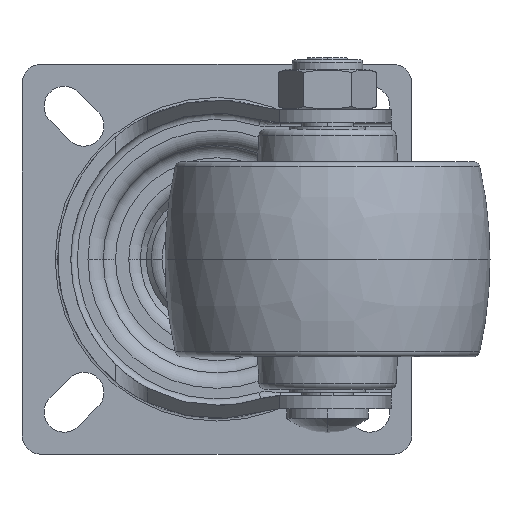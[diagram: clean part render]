
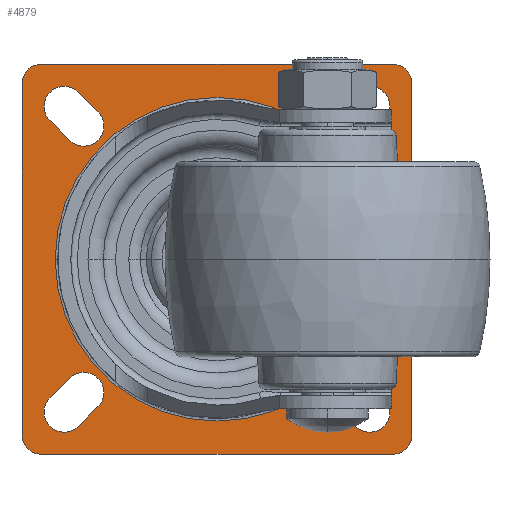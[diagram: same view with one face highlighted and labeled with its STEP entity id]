
A CAD part, front view. The second image highlights one B-rep face of the part: STEP entity #4879.
In plain terms, the highlighted planar face has unit normal (0, -1, 0).
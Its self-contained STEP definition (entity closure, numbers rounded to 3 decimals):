
#4014=CARTESIAN_POINT('',(0.,5.5,0.));
#4015=DIRECTION('',(0.,1.,0.));
#4016=DIRECTION('',(1.,0.,0.));
#4017=AXIS2_PLACEMENT_3D('',#4014,#4015,#4016);
#4019=CARTESIAN_POINT('',(0.,5.5,0.));
#4020=DIRECTION('',(0.,-1.,0.));
#4021=DIRECTION('',(1.,0.,0.));
#4022=AXIS2_PLACEMENT_3D('',#4019,#4020,#4021);
#4024=CARTESIAN_POINT('',(-23.5,5.5,-23.5));
#4025=DIRECTION('',(0.,-1.,0.));
#4026=DIRECTION('',(-0.707,0.,0.707));
#4027=AXIS2_PLACEMENT_3D('',#4024,#4025,#4026);
#4029=DIRECTION('',(-0.707,0.,-0.707));
#4030=VECTOR('',#4029,4.243);
#4031=CARTESIAN_POINT('',(-18.308,5.5,-22.692));
#4032=LINE('',#4031,#4030);
#4033=CARTESIAN_POINT('',(-20.5,5.5,-20.5));
#4034=DIRECTION('',(0.,-1.,0.));
#4035=DIRECTION('',(0.707,0.,-0.707));
#4036=AXIS2_PLACEMENT_3D('',#4033,#4034,#4035);
#4038=DIRECTION('',(0.707,0.,0.707));
#4039=VECTOR('',#4038,4.243);
#4040=CARTESIAN_POINT('',(-25.692,5.5,-21.308));
#4041=LINE('',#4040,#4039);
#4042=DIRECTION('',(0.707,0.,-0.707));
#4043=VECTOR('',#4042,4.243);
#4044=CARTESIAN_POINT('',(22.692,5.5,-18.308));
#4045=LINE('',#4044,#4043);
#4046=CARTESIAN_POINT('',(20.5,5.5,-20.5));
#4047=DIRECTION('',(0.,-1.,0.));
#4048=DIRECTION('',(0.707,0.,0.707));
#4049=AXIS2_PLACEMENT_3D('',#4046,#4047,#4048);
#4051=DIRECTION('',(-0.707,0.,0.707));
#4052=VECTOR('',#4051,4.243);
#4053=CARTESIAN_POINT('',(21.308,5.5,-25.692));
#4054=LINE('',#4053,#4052);
#4055=CARTESIAN_POINT('',(23.5,5.5,-23.5));
#4056=DIRECTION('',(0.,-1.,0.));
#4057=DIRECTION('',(-0.707,0.,-0.707));
#4058=AXIS2_PLACEMENT_3D('',#4055,#4056,#4057);
#4060=CARTESIAN_POINT('',(23.5,5.5,23.5));
#4061=DIRECTION('',(0.,-1.,0.));
#4062=DIRECTION('',(0.707,0.,-0.707));
#4063=AXIS2_PLACEMENT_3D('',#4060,#4061,#4062);
#4065=DIRECTION('',(0.707,0.,0.707));
#4066=VECTOR('',#4065,4.243);
#4067=CARTESIAN_POINT('',(18.308,5.5,22.692));
#4068=LINE('',#4067,#4066);
#4069=CARTESIAN_POINT('',(20.5,5.5,20.5));
#4070=DIRECTION('',(0.,-1.,0.));
#4071=DIRECTION('',(-0.707,0.,0.707));
#4072=AXIS2_PLACEMENT_3D('',#4069,#4070,#4071);
#4074=DIRECTION('',(-0.707,0.,-0.707));
#4075=VECTOR('',#4074,4.243);
#4076=CARTESIAN_POINT('',(25.692,5.5,21.308));
#4077=LINE('',#4076,#4075);
#4078=DIRECTION('',(-0.707,0.,0.707));
#4079=VECTOR('',#4078,4.243);
#4080=CARTESIAN_POINT('',(-22.692,5.5,18.308));
#4081=LINE('',#4080,#4079);
#4082=CARTESIAN_POINT('',(-20.5,5.5,20.5));
#4083=DIRECTION('',(0.,-1.,0.));
#4084=DIRECTION('',(-0.707,0.,-0.707));
#4085=AXIS2_PLACEMENT_3D('',#4082,#4083,#4084);
#4087=DIRECTION('',(0.707,0.,-0.707));
#4088=VECTOR('',#4087,4.243);
#4089=CARTESIAN_POINT('',(-21.308,5.5,25.692));
#4090=LINE('',#4089,#4088);
#4091=CARTESIAN_POINT('',(-23.5,5.5,23.5));
#4092=DIRECTION('',(0.,-1.,0.));
#4093=DIRECTION('',(0.707,0.,0.707));
#4094=AXIS2_PLACEMENT_3D('',#4091,#4092,#4093);
#4096=CARTESIAN_POINT('',(27.,5.5,27.));
#4097=DIRECTION('',(0.,-1.,0.));
#4098=DIRECTION('',(1.,0.,0.));
#4099=AXIS2_PLACEMENT_3D('',#4096,#4097,#4098);
#4101=DIRECTION('',(0.,0.,1.));
#4102=VECTOR('',#4101,54.);
#4103=CARTESIAN_POINT('',(30.,5.5,-27.));
#4104=LINE('',#4103,#4102);
#4105=CARTESIAN_POINT('',(27.,5.5,-27.));
#4106=DIRECTION('',(0.,-1.,0.));
#4107=DIRECTION('',(0.,0.,-1.));
#4108=AXIS2_PLACEMENT_3D('',#4105,#4106,#4107);
#4110=DIRECTION('',(1.,0.,0.));
#4111=VECTOR('',#4110,54.);
#4112=CARTESIAN_POINT('',(-27.,5.5,-30.));
#4113=LINE('',#4112,#4111);
#4114=CARTESIAN_POINT('',(-27.,5.5,-27.));
#4115=DIRECTION('',(0.,-1.,0.));
#4116=DIRECTION('',(-1.,0.,0.));
#4117=AXIS2_PLACEMENT_3D('',#4114,#4115,#4116);
#4119=DIRECTION('',(0.,0.,-1.));
#4120=VECTOR('',#4119,54.);
#4121=CARTESIAN_POINT('',(-30.,5.5,27.));
#4122=LINE('',#4121,#4120);
#4123=CARTESIAN_POINT('',(-27.,5.5,27.));
#4124=DIRECTION('',(0.,-1.,0.));
#4125=DIRECTION('',(0.,0.,1.));
#4126=AXIS2_PLACEMENT_3D('',#4123,#4124,#4125);
#4128=DIRECTION('',(-1.,0.,0.));
#4129=VECTOR('',#4128,54.);
#4130=CARTESIAN_POINT('',(27.,5.5,30.));
#4131=LINE('',#4130,#4129);
#4660=CARTESIAN_POINT('',(24.897,5.5,0.));
#4661=VERTEX_POINT('',#4660);
#4696=CARTESIAN_POINT('',(-24.897,5.5,0.));
#4697=VERTEX_POINT('',#4696);
#4714=CARTESIAN_POINT('',(-25.692,5.5,-21.308));
#4715=CARTESIAN_POINT('',(-21.308,5.5,-25.692));
#4716=VERTEX_POINT('',#4714);
#4717=VERTEX_POINT('',#4715);
#4718=CARTESIAN_POINT('',(-18.308,5.5,-22.692));
#4719=VERTEX_POINT('',#4718);
#4720=CARTESIAN_POINT('',(-22.692,5.5,-18.308));
#4721=VERTEX_POINT('',#4720);
#4722=CARTESIAN_POINT('',(22.692,5.5,-18.308));
#4723=CARTESIAN_POINT('',(25.692,5.5,-21.308));
#4724=VERTEX_POINT('',#4722);
#4725=VERTEX_POINT('',#4723);
#4726=CARTESIAN_POINT('',(18.308,5.5,-22.692));
#4727=VERTEX_POINT('',#4726);
#4728=CARTESIAN_POINT('',(21.308,5.5,-25.692));
#4729=VERTEX_POINT('',#4728);
#4730=CARTESIAN_POINT('',(25.692,5.5,21.308));
#4731=CARTESIAN_POINT('',(21.308,5.5,25.692));
#4732=VERTEX_POINT('',#4730);
#4733=VERTEX_POINT('',#4731);
#4734=CARTESIAN_POINT('',(18.308,5.5,22.692));
#4735=VERTEX_POINT('',#4734);
#4736=CARTESIAN_POINT('',(22.692,5.5,18.308));
#4737=VERTEX_POINT('',#4736);
#4738=CARTESIAN_POINT('',(-22.692,5.5,18.308));
#4739=CARTESIAN_POINT('',(-25.692,5.5,21.308));
#4740=VERTEX_POINT('',#4738);
#4741=VERTEX_POINT('',#4739);
#4742=CARTESIAN_POINT('',(-18.308,5.5,22.692));
#4743=VERTEX_POINT('',#4742);
#4744=CARTESIAN_POINT('',(-21.308,5.5,25.692));
#4745=VERTEX_POINT('',#4744);
#4782=CARTESIAN_POINT('',(30.,5.5,27.));
#4783=VERTEX_POINT('',#4782);
#4784=CARTESIAN_POINT('',(27.,5.5,30.));
#4785=VERTEX_POINT('',#4784);
#4790=CARTESIAN_POINT('',(-27.,5.5,30.));
#4791=VERTEX_POINT('',#4790);
#4792=CARTESIAN_POINT('',(-30.,5.5,27.));
#4793=VERTEX_POINT('',#4792);
#4798=CARTESIAN_POINT('',(-30.,5.5,-27.));
#4799=VERTEX_POINT('',#4798);
#4800=CARTESIAN_POINT('',(-27.,5.5,-30.));
#4801=VERTEX_POINT('',#4800);
#4806=CARTESIAN_POINT('',(27.,5.5,-30.));
#4807=VERTEX_POINT('',#4806);
#4808=CARTESIAN_POINT('',(30.,5.5,-27.));
#4809=VERTEX_POINT('',#4808);
#4810=CARTESIAN_POINT('',(0.,5.5,0.));
#4811=DIRECTION('',(0.,-1.,0.));
#4812=DIRECTION('',(-1.,0.,0.));
#4813=AXIS2_PLACEMENT_3D('',#4810,#4811,#4812);
#4814=PLANE('',#4813);
#4816=ORIENTED_EDGE('',*,*,#4815,.F.);
#4818=ORIENTED_EDGE('',*,*,#4817,.F.);
#4820=ORIENTED_EDGE('',*,*,#4819,.F.);
#4822=ORIENTED_EDGE('',*,*,#4821,.F.);
#4824=ORIENTED_EDGE('',*,*,#4823,.F.);
#4826=ORIENTED_EDGE('',*,*,#4825,.F.);
#4828=ORIENTED_EDGE('',*,*,#4827,.F.);
#4830=ORIENTED_EDGE('',*,*,#4829,.F.);
#4831=EDGE_LOOP('',(#4816,#4818,#4820,#4822,#4824,#4826,#4828,#4830));
#4832=FACE_OUTER_BOUND('',#4831,.F.);
#4834=ORIENTED_EDGE('',*,*,#4833,.T.);
#4836=ORIENTED_EDGE('',*,*,#4835,.F.);
#4838=ORIENTED_EDGE('',*,*,#4837,.T.);
#4840=ORIENTED_EDGE('',*,*,#4839,.F.);
#4841=EDGE_LOOP('',(#4834,#4836,#4838,#4840));
#4842=FACE_BOUND('',#4841,.F.);
#4844=ORIENTED_EDGE('',*,*,#4843,.F.);
#4846=ORIENTED_EDGE('',*,*,#4845,.T.);
#4848=ORIENTED_EDGE('',*,*,#4847,.F.);
#4850=ORIENTED_EDGE('',*,*,#4849,.T.);
#4851=EDGE_LOOP('',(#4844,#4846,#4848,#4850));
#4852=FACE_BOUND('',#4851,.F.);
#4854=ORIENTED_EDGE('',*,*,#4853,.T.);
#4856=ORIENTED_EDGE('',*,*,#4855,.F.);
#4858=ORIENTED_EDGE('',*,*,#4857,.T.);
#4860=ORIENTED_EDGE('',*,*,#4859,.F.);
#4861=EDGE_LOOP('',(#4854,#4856,#4858,#4860));
#4862=FACE_BOUND('',#4861,.F.);
#4864=ORIENTED_EDGE('',*,*,#4863,.F.);
#4866=ORIENTED_EDGE('',*,*,#4865,.T.);
#4868=ORIENTED_EDGE('',*,*,#4867,.F.);
#4870=ORIENTED_EDGE('',*,*,#4869,.T.);
#4871=EDGE_LOOP('',(#4864,#4866,#4868,#4870));
#4872=FACE_BOUND('',#4871,.F.);
#4874=ORIENTED_EDGE('',*,*,#4873,.F.);
#4876=ORIENTED_EDGE('',*,*,#4875,.T.);
#4877=EDGE_LOOP('',(#4874,#4876));
#4878=FACE_BOUND('',#4877,.F.);
#4018=CIRCLE('',#4017,24.897);
#4023=CIRCLE('',#4022,24.897);
#4028=CIRCLE('',#4027,3.1);
#4037=CIRCLE('',#4036,3.1);
#4050=CIRCLE('',#4049,3.1);
#4059=CIRCLE('',#4058,3.1);
#4064=CIRCLE('',#4063,3.1);
#4073=CIRCLE('',#4072,3.1);
#4086=CIRCLE('',#4085,3.1);
#4095=CIRCLE('',#4094,3.1);
#4100=CIRCLE('',#4099,3.);
#4109=CIRCLE('',#4108,3.);
#4118=CIRCLE('',#4117,3.);
#4127=CIRCLE('',#4126,3.);
#4815=EDGE_CURVE('',#4783,#4785,#4100,.T.);
#4817=EDGE_CURVE('',#4809,#4783,#4104,.T.);
#4819=EDGE_CURVE('',#4807,#4809,#4109,.T.);
#4821=EDGE_CURVE('',#4801,#4807,#4113,.T.);
#4823=EDGE_CURVE('',#4799,#4801,#4118,.T.);
#4825=EDGE_CURVE('',#4793,#4799,#4122,.T.);
#4827=EDGE_CURVE('',#4791,#4793,#4127,.T.);
#4829=EDGE_CURVE('',#4785,#4791,#4131,.T.);
#4833=EDGE_CURVE('',#4716,#4717,#4028,.T.);
#4835=EDGE_CURVE('',#4719,#4717,#4032,.T.);
#4837=EDGE_CURVE('',#4719,#4721,#4037,.T.);
#4839=EDGE_CURVE('',#4716,#4721,#4041,.T.);
#4843=EDGE_CURVE('',#4724,#4725,#4045,.T.);
#4845=EDGE_CURVE('',#4724,#4727,#4050,.T.);
#4847=EDGE_CURVE('',#4729,#4727,#4054,.T.);
#4849=EDGE_CURVE('',#4729,#4725,#4059,.T.);
#4853=EDGE_CURVE('',#4732,#4733,#4064,.T.);
#4855=EDGE_CURVE('',#4735,#4733,#4068,.T.);
#4857=EDGE_CURVE('',#4735,#4737,#4073,.T.);
#4859=EDGE_CURVE('',#4732,#4737,#4077,.T.);
#4863=EDGE_CURVE('',#4740,#4741,#4081,.T.);
#4865=EDGE_CURVE('',#4740,#4743,#4086,.T.);
#4867=EDGE_CURVE('',#4745,#4743,#4090,.T.);
#4869=EDGE_CURVE('',#4745,#4741,#4095,.T.);
#4873=EDGE_CURVE('',#4661,#4697,#4018,.T.);
#4875=EDGE_CURVE('',#4661,#4697,#4023,.T.);
#4879=ADVANCED_FACE('',(#4832,#4842,#4852,#4862,#4872,#4878),#4814,.T.);
